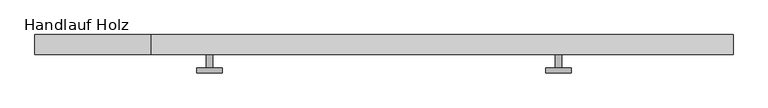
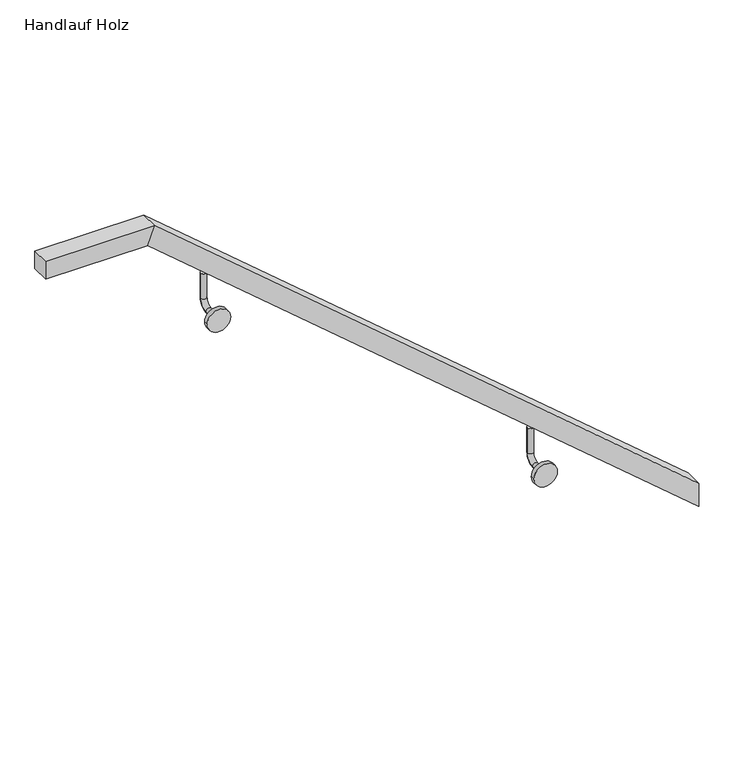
"""IFC4 building model written with IfcOpenShell, lengths in millimetres: railing geometry, Handlauf Holz."""

from ifc_helpers import new_model, si_unit, point, frame, frame_2d, origin, place, context, project, spatial, circle_curve, ellipse_curve, trimmed, segment, composite_curve, outline, extrude, faceted_brep, source, transform, mapped, element, save
from ifc_brep_helpers import plane_surface, cylinder_surface, revolved_surface, advanced_brep


def handlauf_holz_fd729e07(model_context):
    return source(origin(), model_context, "Body", "SolidModel", [
        faceted_brep([(1150.0, 9652.0, 0.0), (1150.0, 9652.0, -52.5251885), (1150.0, 9692.0, -52.5251885), (1150.0, 9692.0, 0.0), (-25.0, 9652.0, 1000.0), (-39.7170965, 9652.0, 960.0), (-39.7170965, 9692.0, 960.0), (-25.0, 9692.0, 1000.0), (-260.0, 9652.0, 1000.0), (-260.0, 9692.0, 1000.0), (-260.0, 9692.0, 960.0), (-260.0, 9652.0, 960.0)], [[[0, 1, 2, 3]], [[1, 0, 4, 5]], [[2, 1, 5, 6]], [[3, 2, 6, 7]], [[0, 3, 7, 4]], [[8, 9, 10, 11]], [[5, 4, 8, 11]], [[6, 5, 11, 10]], [[7, 6, 10, 9]], [[4, 7, 9, 8]]]),
        advanced_brep(
        [(98.85, 9672.0, 840.95), (86.15, 9672.0, 840.95), (86.15, 9672.0, 783.8), (98.85, 9672.0, 783.8), (86.15, 9652.95, 764.75), (98.85, 9652.95, 764.75), (98.85, 9624.375, 764.75), (86.15, 9624.375, 764.75)],
        [
            (0, 1, circle_curve(frame((92.5, 9672.0, 840.95), z_axis=(0.0, 0.0, 1.0), x_axis=(-1.0, 0.0, 0.0)), 6.35)),
            (1, 0, circle_curve(frame((92.5, 9672.0, 840.95), z_axis=(0.0, 0.0, 1.0), x_axis=(-1.0, 0.0, 0.0)), 6.35)),
            (1, 2),
            (2, 3, circle_curve(frame((92.5, 9672.0, 783.8), z_axis=(0.0, 0.0, 1.0), x_axis=(-1.0, 0.0, 0.0)), 6.35)),
            (3, 0),
            (3, 2, circle_curve(frame((92.5, 9672.0, 783.8), z_axis=(0.0, 0.0, 1.0), x_axis=(-1.0, 0.0, 0.0)), 6.35)),
            (4, 5, circle_curve(frame((92.5, 9652.95, 764.75), z_axis=(0.0, 1.0, 0.0), x_axis=(-1.0, 0.0, 0.0)), 6.35)),
            (5, 3, circle_curve(frame((98.85, 9652.95, 783.8), z_axis=(1.0, 0.0, 0.0), x_axis=(0.0, 1.0, 0.0)), 19.05)),
            (2, 4, circle_curve(frame((86.15, 9652.95, 783.8), z_axis=(-1.0, 0.0, 0.0), x_axis=(0.0, 1.0, 0.0)), 19.05)),
            (5, 4, circle_curve(frame((92.5, 9652.95, 764.75), z_axis=(0.0, 1.0, 0.0), x_axis=(-1.0, 0.0, 0.0)), 6.35)),
            (6, 7, circle_curve(frame((92.5, 9624.375, 764.75), z_axis=(0.0, -1.0, 0.0), x_axis=(-1.0, 0.0, 0.0)), 6.35)),
            (7, 6, circle_curve(frame((92.5, 9624.375, 764.75), z_axis=(0.0, -1.0, 0.0), x_axis=(-1.0, 0.0, 0.0)), 6.35)),
            (4, 7),
            (6, 5),
        ],
        [
            plane_surface(frame((86.15, 9672.0, 840.95), z_axis=(0.0, 0.0, 1.0), x_axis=(0.0, -1.0, 0.0))),
            cylinder_surface(frame((92.5, 9672.0, 840.95), z_axis=(0.0, 0.0, 1.0), x_axis=(-1.0, 0.0, 0.0)), 6.35),
            revolved_surface(trimmed(ellipse_curve(frame((92.5, 9672.0, 783.8), z_axis=(0.0, 0.0, -1.0), x_axis=(-1.0, 0.0, 0.0)), 6.35, 6.35), [point((98.85, 9672.0, 783.8))], [point((86.15, 9672.0, 783.8))], True, "CARTESIAN"), (92.5, 9652.95, 783.8), (1.0, 0.0, 0.0)),
            revolved_surface(trimmed(ellipse_curve(frame((92.5, 9672.0, 783.8), z_axis=(0.0, 0.0, -1.0), x_axis=(-1.0, 0.0, 0.0)), 6.35, 6.35), [point((86.15, 9672.0, 783.8))], [point((98.85, 9672.0, 783.8))], True, "CARTESIAN"), (92.5, 9652.95, 783.8), (1.0, 0.0, 0.0)),
            plane_surface(frame((92.5, 9624.375, 758.4), z_axis=(0.0, -1.0, 0.0), x_axis=(-1.0, 0.0, 0.0))),
            cylinder_surface(frame((92.5, 9652.95, 764.75), z_axis=(0.0, 1.0, 0.0), x_axis=(-1.0, 0.0, 0.0)), 6.35),
        ],
        [
            (0, [[1, 2]]),
            (1, [[3, 4, 5, -2]]),
            (1, [[-5, 6, -3, -1]]),
            (2, [[7, 8, -4, 9]]),
            (3, [[10, -9, -6, -8]]),
            (4, [[11, 12]]),
            (5, [[13, -11, 14, -7]]),
            (5, [[-14, -12, -13, -10]]),
        ],
    ),
        extrude(outline(composite_curve([segment(trimmed(circle_curve(frame_2d((764.75, 92.5)), 25.4), [point((764.75, 67.1))], [point((764.75, 117.9))], False, "CARTESIAN"), True, "CONTINUOUS"), segment(trimmed(circle_curve(frame_2d((764.75, 92.5)), 25.4), [point((764.75, 117.9))], [point((764.75, 67.1))], False, "CARTESIAN"), True, "CONTINUOUS")], self_intersect=False)), frame((0.0, 9614.85, 0.0), z_axis=(0.0, 1.0, 0.0), x_axis=(0.0, 0.0, 1.0)), (0.0, 0.0, 1.0), 9.525),
        advanced_brep(
        [(803.85, 9672.0, 240.95), (791.15, 9672.0, 240.95), (791.15, 9672.0, 183.8), (803.85, 9672.0, 183.8), (791.15, 9652.95, 164.75), (803.85, 9652.95, 164.75), (803.85, 9624.375, 164.75), (791.15, 9624.375, 164.75)],
        [
            (0, 1, circle_curve(frame((797.5, 9672.0, 240.95), z_axis=(0.0, 0.0, 1.0), x_axis=(-1.0, 0.0, 0.0)), 6.35)),
            (1, 0, circle_curve(frame((797.5, 9672.0, 240.95), z_axis=(0.0, 0.0, 1.0), x_axis=(-1.0, 0.0, 0.0)), 6.35)),
            (1, 2),
            (2, 3, circle_curve(frame((797.5, 9672.0, 183.8), z_axis=(0.0, 0.0, 1.0), x_axis=(-1.0, 0.0, 0.0)), 6.35)),
            (3, 0),
            (3, 2, circle_curve(frame((797.5, 9672.0, 183.8), z_axis=(0.0, 0.0, 1.0), x_axis=(-1.0, 0.0, 0.0)), 6.35)),
            (4, 5, circle_curve(frame((797.5, 9652.95, 164.75), z_axis=(0.0, 1.0, 0.0), x_axis=(-1.0, 0.0, 0.0)), 6.35)),
            (5, 3, circle_curve(frame((803.85, 9652.95, 183.8), z_axis=(1.0, 0.0, 0.0), x_axis=(0.0, 1.0, 0.0)), 19.05)),
            (2, 4, circle_curve(frame((791.15, 9652.95, 183.8), z_axis=(-1.0, 0.0, 0.0), x_axis=(0.0, 1.0, 0.0)), 19.05)),
            (5, 4, circle_curve(frame((797.5, 9652.95, 164.75), z_axis=(0.0, 1.0, 0.0), x_axis=(-1.0, 0.0, 0.0)), 6.35)),
            (6, 7, circle_curve(frame((797.5, 9624.375, 164.75), z_axis=(0.0, -1.0, 0.0), x_axis=(-1.0, 0.0, 0.0)), 6.35)),
            (7, 6, circle_curve(frame((797.5, 9624.375, 164.75), z_axis=(0.0, -1.0, 0.0), x_axis=(-1.0, 0.0, 0.0)), 6.35)),
            (4, 7),
            (6, 5),
        ],
        [
            plane_surface(frame((791.15, 9672.0, 240.95), z_axis=(0.0, 0.0, 1.0), x_axis=(0.0, -1.0, 0.0))),
            cylinder_surface(frame((797.5, 9672.0, 240.95), z_axis=(0.0, 0.0, 1.0), x_axis=(-1.0, 0.0, 0.0)), 6.35),
            revolved_surface(trimmed(ellipse_curve(frame((797.5, 9672.0, 183.8), z_axis=(0.0, 0.0, -1.0), x_axis=(-1.0, 0.0, 0.0)), 6.35, 6.35), [point((803.85, 9672.0, 183.8))], [point((791.15, 9672.0, 183.8))], True, "CARTESIAN"), (797.5, 9652.95, 183.8), (1.0, 0.0, 0.0)),
            revolved_surface(trimmed(ellipse_curve(frame((797.5, 9672.0, 183.8), z_axis=(0.0, 0.0, -1.0), x_axis=(-1.0, 0.0, 0.0)), 6.35, 6.35), [point((791.15, 9672.0, 183.8))], [point((803.85, 9672.0, 183.8))], True, "CARTESIAN"), (797.5, 9652.95, 183.8), (1.0, 0.0, 0.0)),
            plane_surface(frame((797.5, 9624.375, 158.4), z_axis=(0.0, -1.0, 0.0), x_axis=(-1.0, 0.0, 0.0))),
            cylinder_surface(frame((797.5, 9652.95, 164.75), z_axis=(0.0, 1.0, 0.0), x_axis=(-1.0, 0.0, 0.0)), 6.35),
        ],
        [
            (0, [[1, 2]]),
            (1, [[3, 4, 5, -2]]),
            (1, [[-5, 6, -3, -1]]),
            (2, [[7, 8, -4, 9]]),
            (3, [[10, -9, -6, -8]]),
            (4, [[11, 12]]),
            (5, [[13, -11, 14, -7]]),
            (5, [[-14, -12, -13, -10]]),
        ],
    ),
        extrude(outline(composite_curve([segment(trimmed(circle_curve(frame_2d((164.75, 797.5)), 25.4), [point((164.75, 772.1))], [point((164.75, 822.9))], False, "CARTESIAN"), True, "CONTINUOUS"), segment(trimmed(circle_curve(frame_2d((164.75, 797.5)), 25.4), [point((164.75, 822.9))], [point((164.75, 772.1))], False, "CARTESIAN"), True, "CONTINUOUS")], self_intersect=False)), frame((0.0, 9614.85, 0.0), z_axis=(0.0, 1.0, 0.0), x_axis=(0.0, 0.0, 1.0)), (0.0, 0.0, 1.0), 9.525),
    ])


if __name__ == "__main__":
    model = new_model("IFC4")
    model_context = context("Model", 3, world=origin())
    ifc_project = project(units=[si_unit("LENGTHUNIT", "METRE", prefix="MILLI")], contexts=[model_context])
    site = spatial("IfcSite", under=ifc_project)
    building = spatial("IfcBuilding", under=site)
    placement = place(None, origin())
    handlauf_holz_shape = handlauf_holz_fd729e07(model_context)
    element("IfcRailing", 1, ObjectType="Handlauf Holz", at=placement, inside=building, context=model_context, shape_type="MappedRepresentation", body=[
        mapped(handlauf_holz_shape, transform((0.0, 0.0, 0.0), x_axis=(1.0, 0.0, 0.0), y_axis=(0.0, 1.0, 0.0), z_axis=(0.0, 0.0, 1.0))),
    ])
    save(model, "model.ifc")
